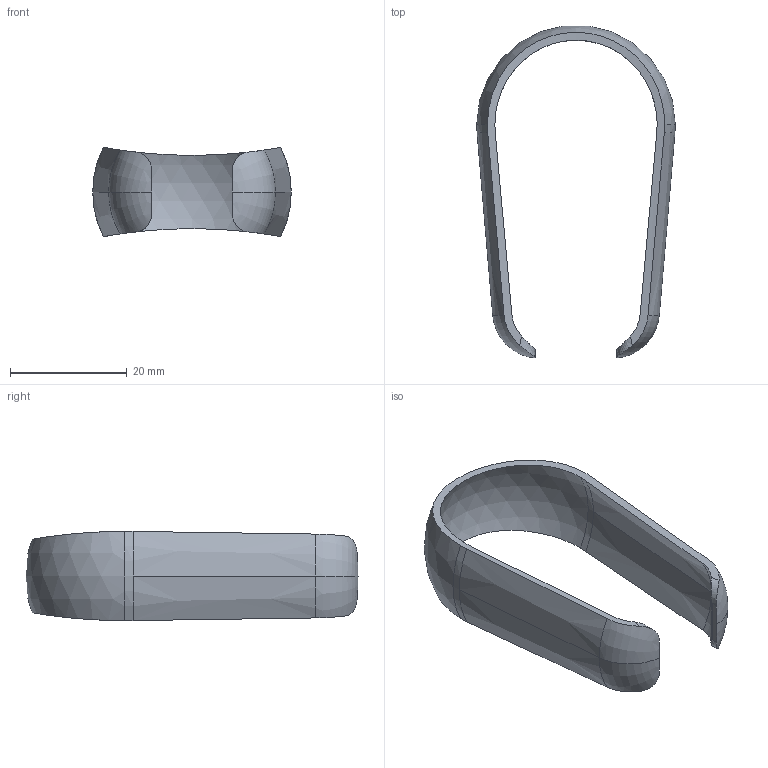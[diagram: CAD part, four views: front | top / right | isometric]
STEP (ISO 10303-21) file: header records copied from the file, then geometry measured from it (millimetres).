
FILE_DESCRIPTION(('STEP AP214'),'1');
FILE_NAME('C:/Users/dn/Downloads/Strawberry Picker.stp','2013-10-20T18:00:33',(' '),(' '),'Spatial InterOp 3D',' ',' ');
FILE_SCHEMA(('automotive_design'));
Length unit declared in the file: millimetre
Products named in the file (1): Strawberry Picker
Bounding box: 34 x 56.85 x 15.29 mm (x, y, z)
Volume: 2471.3 mm3; surface area: 4327.2 mm2
Topology: 1 solids, 1 shells, 32 faces, 86 edges, 56 vertices
Faces by surface type: torus 8, cone 8, cylinder 6, sphere 6, bspline 4
Entity records: 2594 total; most frequent: CARTESIAN_POINT 1619, ORIENTED_EDGE 172, DIRECTION 112, EDGE_CURVE 86, VERTEX_POINT 56, B_SPLINE_CURVE_WITH_KNOTS 56, AXIS2_PLACEMENT_3D 53, STYLED_ITEM 32
